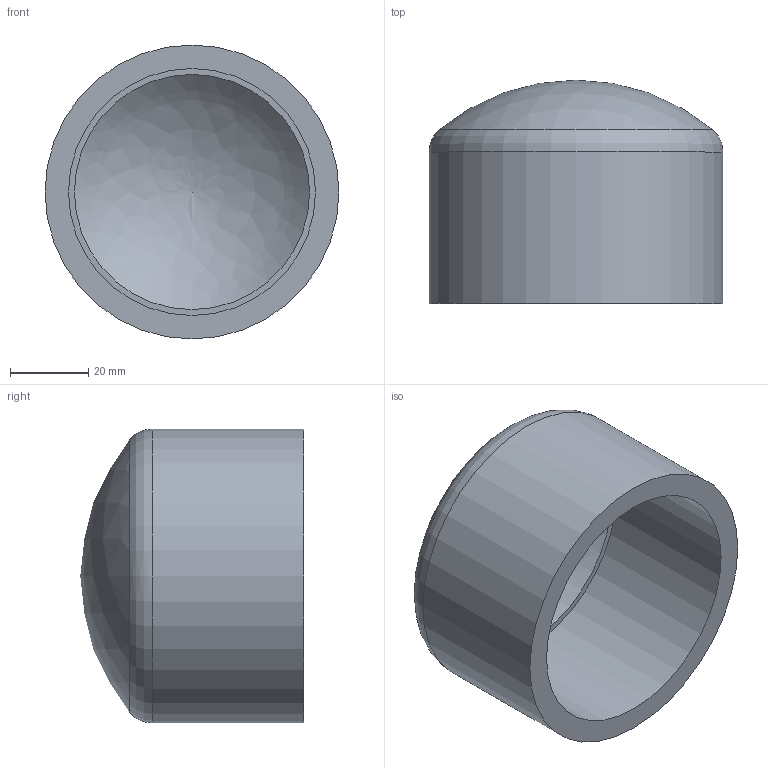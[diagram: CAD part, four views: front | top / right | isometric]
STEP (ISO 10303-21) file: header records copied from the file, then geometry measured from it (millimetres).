
FILE_DESCRIPTION(/* description */ ('PVC calotta incollaggio metrico'),/* implementation_level */ '2;1');
FILE_NAME(/* name */ 'C:\Users\POLYPIPE\Desktop\DATASET INVENTOR\LIBRERIA EFFAST\RACCORDI 3DxWEB\RDR\3D_RDRCAD\3D_RDRCAD0630.stp',/* time_stamp */ '2018-01-19T14:06:39+01:00',/* author */ ('POLYPIPE'),/* organization */ ('Polypipe Italia'),/* preprocessor_version */ 'ST-DEVELOPER v16.1',/* originating_system */ 'Autodesk Inventor 2016',/* authorisation */ '');
FILE_SCHEMA (('CONFIG_CONTROL_DESIGN'));
Length unit declared in the file: millimetre
Products named in the file (1): 3D_RDRCAD
Bounding box: 75 x 57 x 75 mm (x, y, z)
Volume: 83284.3 mm3; surface area: 27335.7 mm2
Topology: 1 solids, 1 shells, 7 faces, 12 edges, 8 vertices
Faces by surface type: cylinder 2, plane 2, torus 1, sphere 1, bspline 1
Full cylindrical faces by diameter (mm): 63 x1, 75 x1
Entity records: 198 total; most frequent: CARTESIAN_POINT 52, DIRECTION 28, ORIENTED_EDGE 16, AXIS2_PLACEMENT_3D 14, EDGE_LOOP 12, VERTEX_POINT 8, EDGE_CURVE 8, FACE_OUTER_BOUND 7
